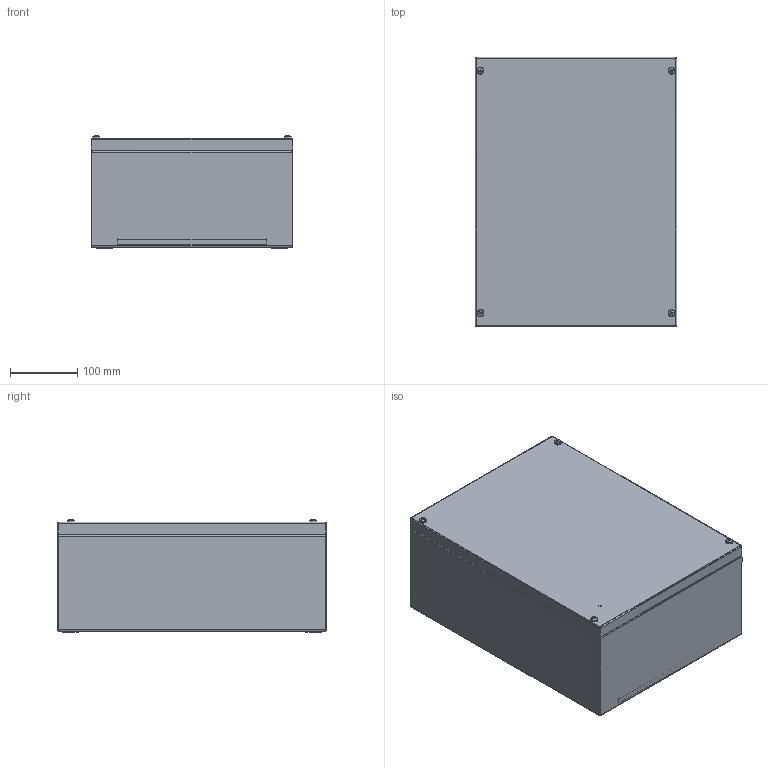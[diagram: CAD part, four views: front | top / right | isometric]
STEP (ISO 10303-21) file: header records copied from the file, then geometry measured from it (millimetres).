
FILE_DESCRIPTION (( 'STEP AP203' ), '1' );
FILE_NAME ('SS JB-400 x 300 x 161-ASSEMBLY.STEP', '2020-03-13T11:18:11', ( '' ), ( '' ), 'SwSTEP 2.0', 'SolidWorks 2018', '' );
FILE_SCHEMA (( 'CONFIG_CONTROL_DESIGN' ));
Length unit declared in the file: millimetre
Products named in the file (7): SS JB-400 x 300 x 161-LID_400 x 300 x 161; M5X33 LID SCREW; SS JB-400 x 300 x 161-ASSEMBLY; Dinral Mounting Channel-300; M5 BLIND NUTSERT; SS JB-400 x 300 x 161-BASE_400 x 300 x 161; PLASTIC INSERT FOR FABRICATED ENCLOSURE
Assembly tree (16 placements, depth 2):
  SS JB-400 x 300 x 161-ASSEMBLY
    SS JB-400 x 300 x 161-BASE_400 x 300 x 161
    Dinral Mounting Channel-300  x2
    SS JB-400 x 300 x 161-LID_400 x 300 x 161
    M5 BLIND NUTSERT  x4
    M5X33 LID SCREW  x4
    PLASTIC INSERT FOR FABRICATED ENCLOSURE  x4
Bounding box: 300 x 400 x 167.81 mm (x, y, z)
Volume: 640721.6 mm3; surface area: 1047530.9 mm2
Topology: 16 solids, 16 shells, 755 faces, 1822 edges, 1132 vertices
Faces by surface type: cylinder 346, plane 265, cone 104, bspline 32, sphere 8
Entity records: 15567 total; most frequent: CARTESIAN_POINT 4976, ORIENTED_EDGE 2016, DIRECTION 1883, EDGE_CURVE 1008, AXIS2_PLACEMENT_3D 654, VERTEX_POINT 610, LINE 575, VECTOR 575
